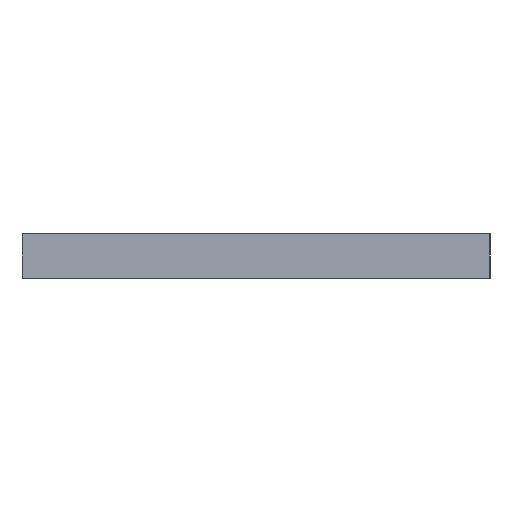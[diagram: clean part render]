
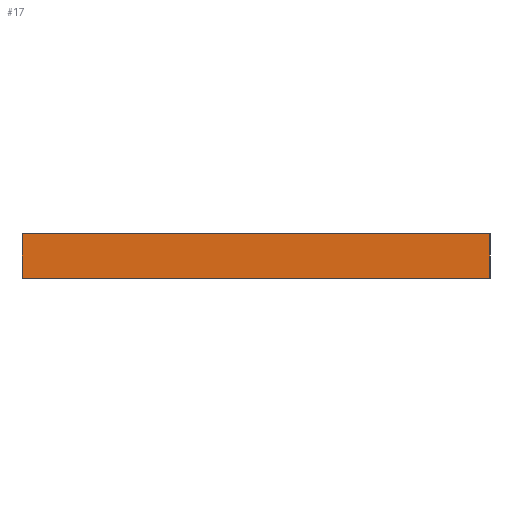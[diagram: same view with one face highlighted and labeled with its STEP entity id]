
A CAD part, left-side view. The second image highlights one B-rep face of the part: STEP entity #17.
In plain terms, the highlighted planar face has unit normal (-1, 0, 0).
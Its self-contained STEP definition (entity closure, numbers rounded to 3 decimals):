
#17 = ADVANCED_FACE('',(#18),#32,.F.);
#18 = FACE_BOUND('',#19,.F.);
#19 = EDGE_LOOP('',(#20,#55,#83,#111));
#20 = ORIENTED_EDGE('',*,*,#21,.F.);
#21 = EDGE_CURVE('',#22,#24,#26,.T.);
#22 = VERTEX_POINT('',#23);
#23 = CARTESIAN_POINT('',(-10.8,-44.5,1.66));
#24 = VERTEX_POINT('',#25);
#25 = CARTESIAN_POINT('',(-10.8,-44.5,3.26));
#26 = SURFACE_CURVE('',#27,(#31,#43),.PCURVE_S1.);
#27 = LINE('',#28,#29);
#28 = CARTESIAN_POINT('',(-10.8,-44.5,1.66));
#29 = VECTOR('',#30,1.);
#30 = DIRECTION('',(0.,0.,1.));
#31 = PCURVE('',#32,#37);
#32 = PLANE('',#33);
#33 = AXIS2_PLACEMENT_3D('',#34,#35,#36);
#34 = CARTESIAN_POINT('',(-10.8,-44.5,1.66));
#35 = DIRECTION('',(1.,0.,0.));
#36 = DIRECTION('',(0.,0.,1.));
#37 = DEFINITIONAL_REPRESENTATION('',(#38),#42);
#38 = LINE('',#39,#40);
#39 = CARTESIAN_POINT('',(0.,0.));
#40 = VECTOR('',#41,1.);
#41 = DIRECTION('',(1.,0.));
#42 = ( GEOMETRIC_REPRESENTATION_CONTEXT(2) 
PARAMETRIC_REPRESENTATION_CONTEXT() REPRESENTATION_CONTEXT('2D SPACE',''
  ) );
#43 = PCURVE('',#44,#49);
#44 = PLANE('',#45);
#45 = AXIS2_PLACEMENT_3D('',#46,#47,#48);
#46 = CARTESIAN_POINT('',(-10.8,-44.5,1.66));
#47 = DIRECTION('',(0.,1.,0.));
#48 = DIRECTION('',(0.,0.,1.));
#49 = DEFINITIONAL_REPRESENTATION('',(#50),#54);
#50 = LINE('',#51,#52);
#51 = CARTESIAN_POINT('',(0.,0.));
#52 = VECTOR('',#53,1.);
#53 = DIRECTION('',(1.,0.));
#54 = ( GEOMETRIC_REPRESENTATION_CONTEXT(2) 
PARAMETRIC_REPRESENTATION_CONTEXT() REPRESENTATION_CONTEXT('2D SPACE',''
  ) );
#55 = ORIENTED_EDGE('',*,*,#56,.T.);
#56 = EDGE_CURVE('',#22,#57,#59,.T.);
#57 = VERTEX_POINT('',#58);
#58 = CARTESIAN_POINT('',(-10.8,-27.5,1.66));
#59 = SURFACE_CURVE('',#60,(#64,#71),.PCURVE_S1.);
#60 = LINE('',#61,#62);
#61 = CARTESIAN_POINT('',(-10.8,-44.5,1.66));
#62 = VECTOR('',#63,1.);
#63 = DIRECTION('',(0.,1.,0.));
#64 = PCURVE('',#32,#65);
#65 = DEFINITIONAL_REPRESENTATION('',(#66),#70);
#66 = LINE('',#67,#68);
#67 = CARTESIAN_POINT('',(0.,0.));
#68 = VECTOR('',#69,1.);
#69 = DIRECTION('',(0.,-1.));
#70 = ( GEOMETRIC_REPRESENTATION_CONTEXT(2) 
PARAMETRIC_REPRESENTATION_CONTEXT() REPRESENTATION_CONTEXT('2D SPACE',''
  ) );
#71 = PCURVE('',#72,#77);
#72 = PLANE('',#73);
#73 = AXIS2_PLACEMENT_3D('',#74,#75,#76);
#74 = CARTESIAN_POINT('',(-10.8,-44.5,1.66));
#75 = DIRECTION('',(0.,0.,1.));
#76 = DIRECTION('',(1.,0.,0.));
#77 = DEFINITIONAL_REPRESENTATION('',(#78),#82);
#78 = LINE('',#79,#80);
#79 = CARTESIAN_POINT('',(0.,0.));
#80 = VECTOR('',#81,1.);
#81 = DIRECTION('',(0.,1.));
#82 = ( GEOMETRIC_REPRESENTATION_CONTEXT(2) 
PARAMETRIC_REPRESENTATION_CONTEXT() REPRESENTATION_CONTEXT('2D SPACE',''
  ) );
#83 = ORIENTED_EDGE('',*,*,#84,.T.);
#84 = EDGE_CURVE('',#57,#85,#87,.T.);
#85 = VERTEX_POINT('',#86);
#86 = CARTESIAN_POINT('',(-10.8,-27.5,3.26));
#87 = SURFACE_CURVE('',#88,(#92,#99),.PCURVE_S1.);
#88 = LINE('',#89,#90);
#89 = CARTESIAN_POINT('',(-10.8,-27.5,1.66));
#90 = VECTOR('',#91,1.);
#91 = DIRECTION('',(0.,0.,1.));
#92 = PCURVE('',#32,#93);
#93 = DEFINITIONAL_REPRESENTATION('',(#94),#98);
#94 = LINE('',#95,#96);
#95 = CARTESIAN_POINT('',(0.,-17.));
#96 = VECTOR('',#97,1.);
#97 = DIRECTION('',(1.,0.));
#98 = ( GEOMETRIC_REPRESENTATION_CONTEXT(2) 
PARAMETRIC_REPRESENTATION_CONTEXT() REPRESENTATION_CONTEXT('2D SPACE',''
  ) );
#99 = PCURVE('',#100,#105);
#100 = PLANE('',#101);
#101 = AXIS2_PLACEMENT_3D('',#102,#103,#104);
#102 = CARTESIAN_POINT('',(-10.8,-27.5,1.66));
#103 = DIRECTION('',(0.,1.,0.));
#104 = DIRECTION('',(0.,0.,1.));
#105 = DEFINITIONAL_REPRESENTATION('',(#106),#110);
#106 = LINE('',#107,#108);
#107 = CARTESIAN_POINT('',(0.,0.));
#108 = VECTOR('',#109,1.);
#109 = DIRECTION('',(1.,0.));
#110 = ( GEOMETRIC_REPRESENTATION_CONTEXT(2) 
PARAMETRIC_REPRESENTATION_CONTEXT() REPRESENTATION_CONTEXT('2D SPACE',''
  ) );
#111 = ORIENTED_EDGE('',*,*,#112,.F.);
#112 = EDGE_CURVE('',#24,#85,#113,.T.);
#113 = SURFACE_CURVE('',#114,(#118,#125),.PCURVE_S1.);
#114 = LINE('',#115,#116);
#115 = CARTESIAN_POINT('',(-10.8,-44.5,3.26));
#116 = VECTOR('',#117,1.);
#117 = DIRECTION('',(0.,1.,0.));
#118 = PCURVE('',#32,#119);
#119 = DEFINITIONAL_REPRESENTATION('',(#120),#124);
#120 = LINE('',#121,#122);
#121 = CARTESIAN_POINT('',(1.6,0.));
#122 = VECTOR('',#123,1.);
#123 = DIRECTION('',(0.,-1.));
#124 = ( GEOMETRIC_REPRESENTATION_CONTEXT(2) 
PARAMETRIC_REPRESENTATION_CONTEXT() REPRESENTATION_CONTEXT('2D SPACE',''
  ) );
#125 = PCURVE('',#126,#131);
#126 = PLANE('',#127);
#127 = AXIS2_PLACEMENT_3D('',#128,#129,#130);
#128 = CARTESIAN_POINT('',(-10.8,-44.5,3.26));
#129 = DIRECTION('',(0.,0.,1.));
#130 = DIRECTION('',(1.,0.,0.));
#131 = DEFINITIONAL_REPRESENTATION('',(#132),#136);
#132 = LINE('',#133,#134);
#133 = CARTESIAN_POINT('',(0.,0.));
#134 = VECTOR('',#135,1.);
#135 = DIRECTION('',(0.,1.));
#136 = ( GEOMETRIC_REPRESENTATION_CONTEXT(2) 
PARAMETRIC_REPRESENTATION_CONTEXT() REPRESENTATION_CONTEXT('2D SPACE',''
  ) );
